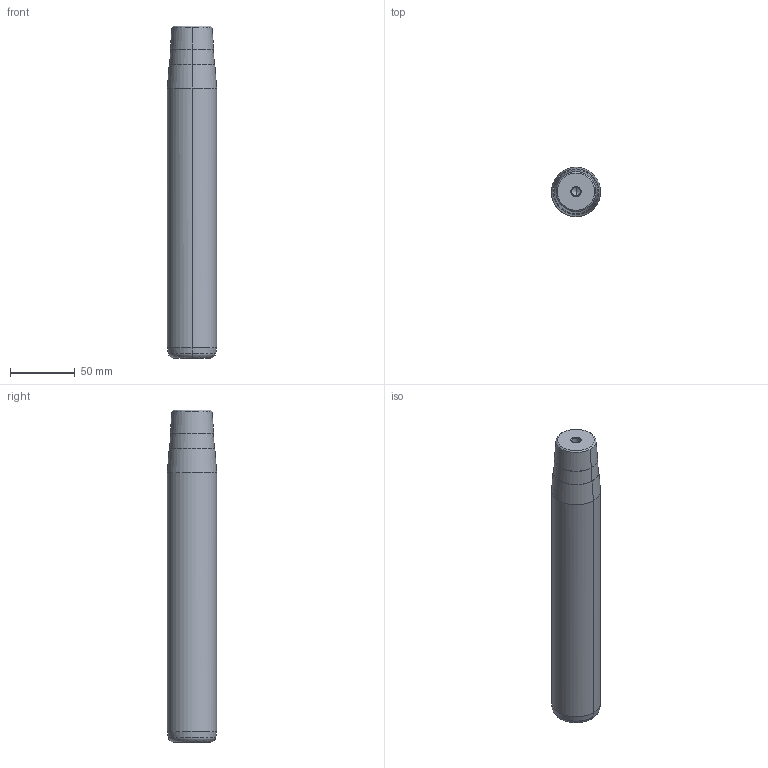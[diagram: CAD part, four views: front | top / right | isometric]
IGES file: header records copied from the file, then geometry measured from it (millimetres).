
Start section: START RECORD GO HERE.
Global section: file name: 722-38x224x257.igs; native system: DASSAULT SYSTEMES CATIA V5 R20 - www.3ds.com; preprocessor: CATIA Version 5 Release 20 ; author: Utente; organization: NB04-ASUS; date: 20210108.170237; units: millimetre
Bounding box: 38 x 38 x 257 mm (x, y, z)
Surface area: 32808.3 mm2 (no closed solid volume)
Topology: 0 solids, 0 shells, 32 faces, 192 edges, 188 vertices
Faces by surface type: revolution 30, plane 2
